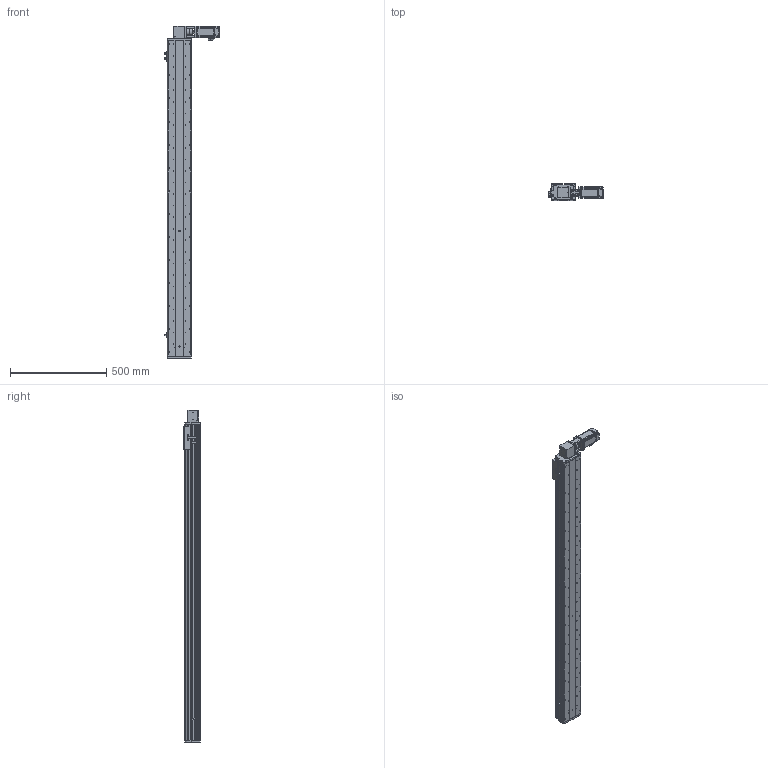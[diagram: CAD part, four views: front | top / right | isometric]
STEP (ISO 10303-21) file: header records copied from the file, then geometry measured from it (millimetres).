
FILE_DESCRIPTION (( 'STEP AP214' ), '1' );
FILE_NAME ('KSD125B-S1450-MRT-CM.STEP', '2017-10-21T07:12:51', ( '微软用户' ), ( '微软中国' ), 'SwSTEP 2.0', 'SolidWorks 2014', '' );
FILE_SCHEMA (( 'AUTOMOTIVE_DESIGN' ));
Length unit declared in the file: millimetre
Products named in the file (16): 125模组1450行程同步带-底板; MHMD042G1CA_2_03; KSD125模组同步带-防撞垫2; CS-34X32-10X14; 100遵鎮湛假蚾啣1 ; 覜茼え68遵圉猾敕; U倰嫖萇假蚾璃; U倰嫖萇EEㄜSX672; KSD125模组同步带-防撞垫1; 100宽安装板同步带带电机座400W,86; 前端板-125宽模组同步带; 125模组同步带-尾端板1; KSD125模组同步带-滑动座1; KSD125B-S1450-MRT-CM; 100宽马达安装板同步带左; KSD125模组1450行程同步带-防尘盖
Assembly tree (19 placements, depth 2):
  KSD125B-S1450-MRT-CM
    KSD125模组同步带-滑动座1
    125模组同步带-尾端板1
    前端板-125宽模组同步带
    100宽安装板同步带带电机座400W,86
    KSD125模组同步带-防撞垫1
    U倰嫖萇EEㄜSX672  x3
    U倰嫖萇假蚾璃  x3
    覜茼え68遵圉猾敕
    100遵鎮湛假蚾啣1 
    CS-34X32-10X14
    KSD125模组同步带-防撞垫2
    MHMD042G1CA_2_03
    125模组1450行程同步带-底板
    KSD125模组1450行程同步带-防尘盖
    100宽马达安装板同步带左
Bounding box: 282.7 x 86 x 1727 mm (x, y, z)
Volume: 5109983.5 mm3; surface area: 1666733.7 mm2
Topology: 18 solids, 21 shells, 1786 faces, 5134 edges, 3388 vertices
Faces by surface type: cylinder 969, plane 714, cone 81, bspline 22
Entity records: 63426 total; most frequent: CARTESIAN_POINT 12752, DIRECTION 9305, ORIENTED_EDGE 8788, EDGE_CURVE 4472, AXIS2_PLACEMENT_3D 3489, VERTEX_POINT 2980, LINE 2327, VECTOR 2327
